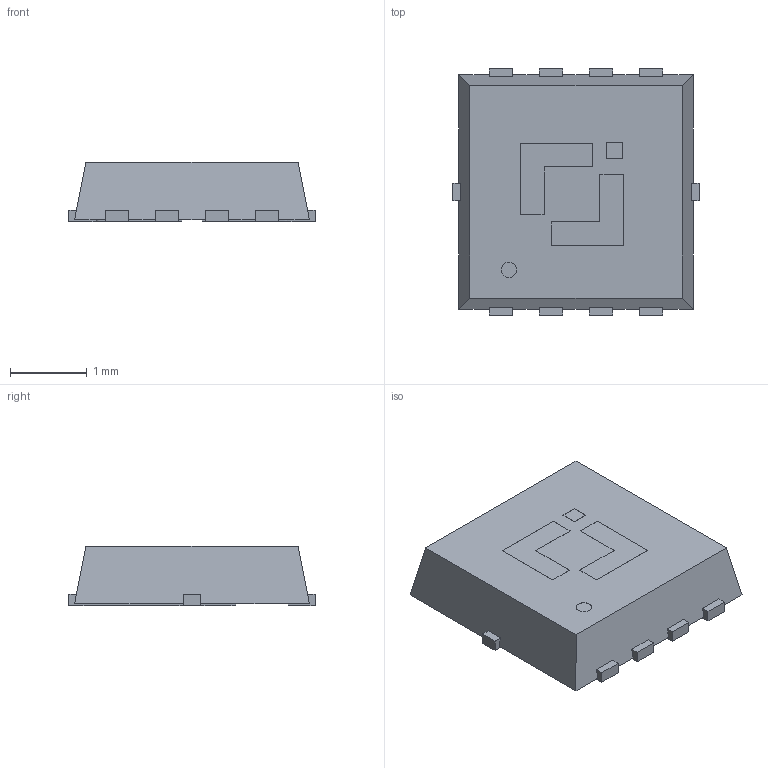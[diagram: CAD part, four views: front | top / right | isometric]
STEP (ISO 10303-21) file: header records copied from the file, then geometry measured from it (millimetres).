
FILE_DESCRIPTION(('HOOPS Exchange Step'),'2;1');
FILE_NAME('C:\Users\18121\AppData\Local\Packages\Shapr3D.Shapr3D_dvv5p1vgwv6mp\TempState\export\temp_export','2025-12-05T10:39:49+08:00',('18121'),('Shapr3D Limited'),'HOOPS Exchange 2025.7','Shapr3D','Authorized');
FILE_SCHEMA( ('AP242_MANAGED_MODEL_BASED_3D_ENGINEERING_MIM_LF {1 0 10303 442 1 1 4}') );
Length unit declared in the file: millimetre
Products named in the file (1): root
Bounding box: 3.2 x 3.2 x 0.78 mm (x, y, z)
Volume: 6.5 mm3; surface area: 27 mm2
Topology: 1 solids, 1 shells, 111 faces, 317 edges, 212 vertices
Faces by surface type: plane 106, cylinder 5
Full cylindrical faces by diameter (mm): 0.2 x1
Entity records: 3647 total; most frequent: CARTESIAN_POINT 642, ORIENTED_EDGE 634, DIRECTION 555, EDGE_CURVE 317, VECTOR 305, LINE 305, VERTEX_POINT 212, AXIS2_PLACEMENT_3D 125
